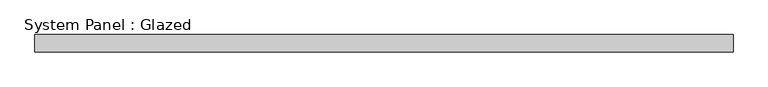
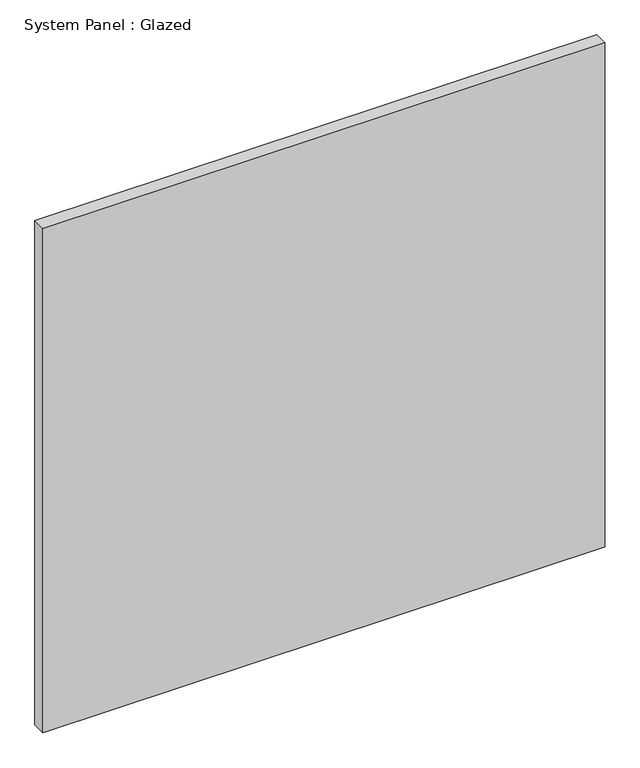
"""IFC4 building model written with IfcOpenShell, lengths in millimetres: plate geometry, System Panel : Glazed."""

from ifc_helpers import new_model, si_unit, origin, origin_with_axes, place, context, project, spatial, polyline, outline, extrude, source, transform, mapped, element, save


def system_panel_glazed_5607b25a(model_context):
    return source(origin(), model_context, "Body", "SweptSolid", [
        extrude(outline(polyline([(516.255, -44.45), (-516.255, -44.45), (-516.255, -19.05), (516.255, -19.05), (516.255, -44.45)])), origin_with_axes(), (0.0, 0.0, 1.0), 979.9108166),
    ])


if __name__ == "__main__":
    model = new_model("IFC4")
    model_context = context("Model", 3, world=origin())
    ifc_project = project(units=[si_unit("LENGTHUNIT", "METRE", prefix="MILLI")], contexts=[model_context])
    site = spatial("IfcSite", under=ifc_project)
    building = spatial("IfcBuilding", under=site)
    placement = place(None, origin())
    system_panel_glazed_shape = system_panel_glazed_5607b25a(model_context)
    element("IfcPlate", 1, ObjectType="System Panel : Glazed", at=placement, inside=building, context=model_context, shape_type="MappedRepresentation", body=[
        mapped(system_panel_glazed_shape, transform((0.0, 0.0, 0.0), x_axis=(1.0, 0.0, 0.0), y_axis=(0.0, 1.0, 0.0), z_axis=(0.0, 0.0, 1.0))),
    ])
    save(model, "model.ifc")
